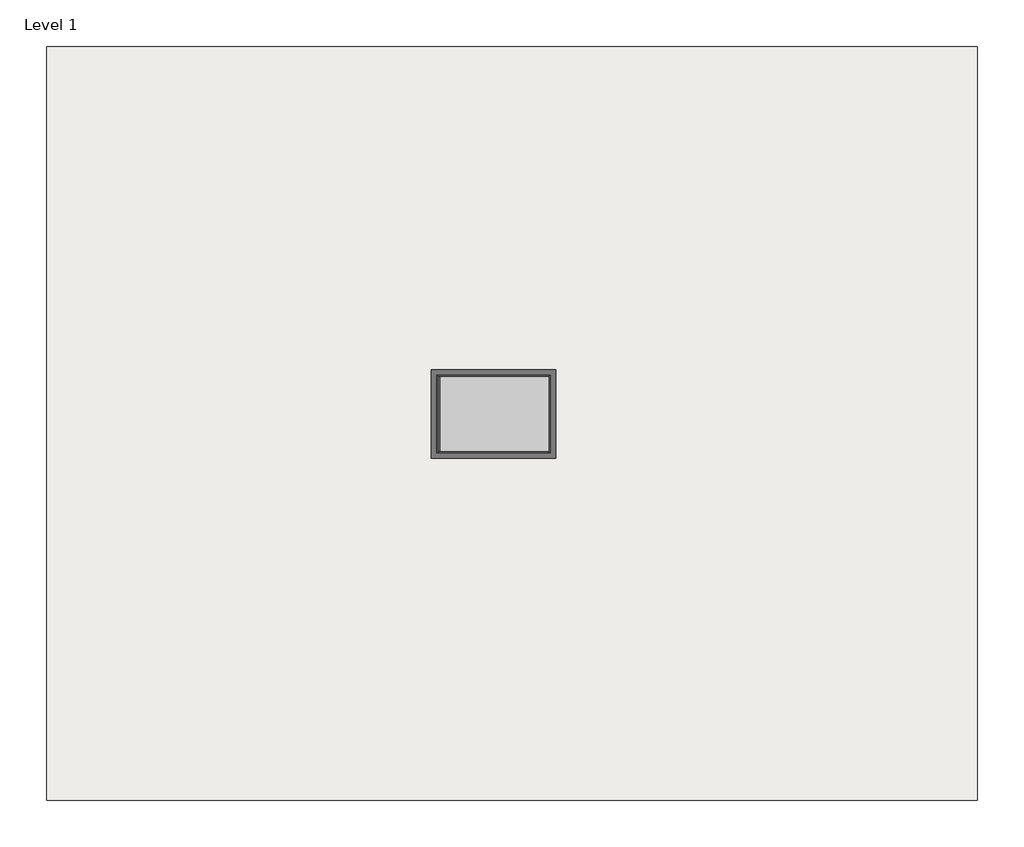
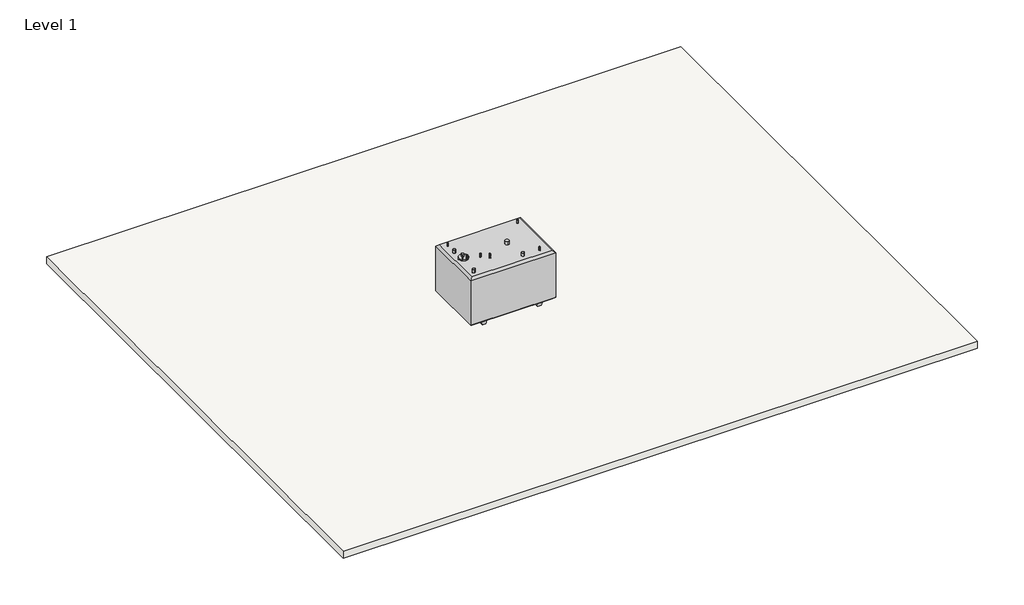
# One storey: 1 proxy, 1 slab.
"""IFC4 building model written with IfcOpenShell, lengths in millimetres."""

from ifc_helpers import new_model, si_unit, frame, origin, place, context, project, spatial, polyline, outline, extrude, transform, mapped, element, save
from components import generic_models_899ce9b8

model = new_model("IFC4")

# Units and contexts
model_context = context("Model", 3, world=origin())
ifc_project = project(units=[si_unit("LENGTHUNIT", "METRE", prefix="MILLI")], contexts=[model_context])

# Site, building, storey
site = spatial("IfcSite", under=ifc_project)
building = spatial("IfcBuilding", under=site)
storey = spatial("IfcBuildingStorey", under=building, Name="Level 1", Elevation=0.0)

# Proxy
placement = place(None, origin())
generic_models_shape = generic_models_899ce9b8(model_context)
element("IfcBuildingElementProxy", 1, Name="Convault Tank Family 88153116 : Convault Tank Family 88153116", ObjectType="Convault Tank Family 88153116 : Convault Tank Family 88153116", at=placement, inside=storey, context=model_context, shape_type="MappedRepresentation", body=[
    mapped(generic_models_shape, transform((-863.7156673, 2240.3243894, 0.0), x_axis=(1.0, 0.0, 0.0), y_axis=(0.0, 1.0, 0.0), z_axis=(0.0, 0.0, 1.0))),
])

# Slab
element("IfcSlab", 2, ObjectType="Generic - 12\"", at=placement, inside=storey, context=model_context, shape_type="SweptSolid", body=[
    extrude(outline(polyline([(12446.9560906, 12349.2639914), (12446.9560906, -8377.1360086), (-13156.2439094, -8377.1360086), (-13156.2439094, 12349.2639914), (12446.9560906, 12349.2639914)])), frame((0.0, 0.0, -304.8), z_axis=(0.0, 0.0, 1.0), x_axis=(1.0, 0.0, 0.0)), (0.0, 0.0, 1.0), 304.8),
])

save(model, "model.ifc")
